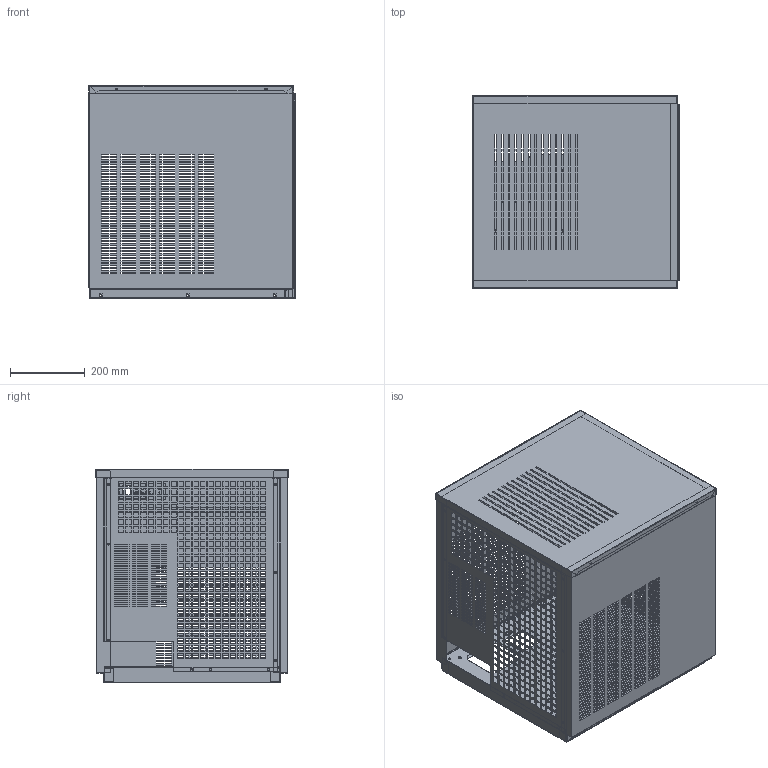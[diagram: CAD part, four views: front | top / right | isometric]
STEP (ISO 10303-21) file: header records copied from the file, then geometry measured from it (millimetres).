
FILE_DESCRIPTION(/* description */ ('Unknown'),/* implementation_level */ '2;1');
FILE_NAME(/* name */ 'ICE TECH GR 220',/* time_stamp */ '2018-04-23T13:11:13+02:00',/* author */ ('Unknown'),/* organization */ ('Unknown'),/* preprocessor_version */ 'ST-DEVELOPER v16.7',/* originating_system */ 'DEX',/* authorisation */ $);
FILE_SCHEMA (('CONFIG_CONTROL_DESIGN'));
Products named in the file (10): IQ-200_2011; 24-18+2456; 24-26+2463; 24-26+2464; 24-29+2466; 24-27+2465; 24-218+6647; Pilotos-IQ_oa_0; 24-223; 24-254+8703
Assembly tree (9 placements, depth 3):
  IQ-200_2011
    24-18+2456
    24-26+2463
    24-26+2464
    24-29+2466
    24-27+2465
    24-218+6647
    Pilotos-IQ_oa_0
      24-223
    24-254+8703
Bounding box: 551.69 x 515.2 x 570.6 mm (x, y, z)
Volume: 1414869.2 mm3; surface area: 3610144.2 mm2
Topology: 8 solids, 8 shells, 5575 faces, 16394 edges, 10882 vertices
Faces by surface type: plane 5286, cylinder 265, bspline 24
Full cylindrical faces by diameter (mm): 1 x35, 4 x17, 4.2 x4, 4.25 x7, 5 x2, 6 x31, 8 x6, 9 x5, 15 x1
Entity records: 188752 total; most frequent: CARTESIAN_POINT 33238, ORIENTED_EDGE 32528, DIRECTION 27853, EDGE_CURVE 16264, LINE 15711, VECTOR 15711, VERTEX_POINT 10860, EDGE_LOOP 8228
